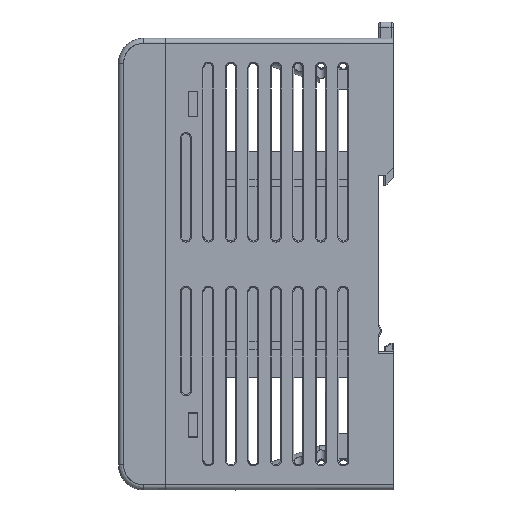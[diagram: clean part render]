
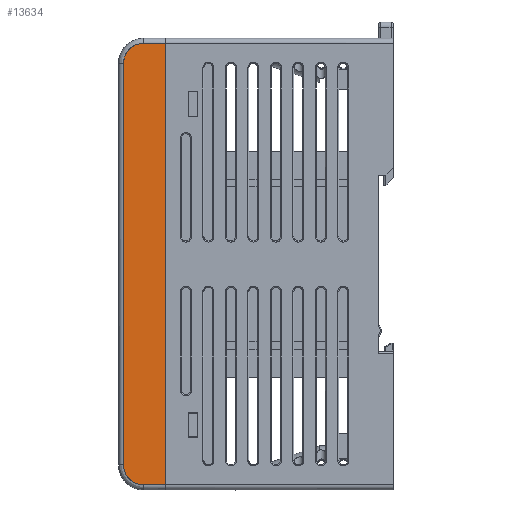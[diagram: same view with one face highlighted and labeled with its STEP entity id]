
A CAD part, left-side view. The second image highlights one B-rep face of the part: STEP entity #13634.
In plain terms, the highlighted planar face has unit normal (-1, 0, 0).
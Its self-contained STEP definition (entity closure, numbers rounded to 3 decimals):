
#13634=ADVANCED_FACE('',(#14996),#44193,.T.);
#14996=FACE_OUTER_BOUND('',#16307,.T.);
#16307=EDGE_LOOP('',(#18284,#18285,#18286,#18287,#18288,#18289));
#18284=ORIENTED_EDGE('',*,*,#24928,.T.);
#18285=ORIENTED_EDGE('',*,*,#24933,.T.);
#18286=ORIENTED_EDGE('',*,*,#24932,.T.);
#18287=ORIENTED_EDGE('',*,*,#24931,.T.);
#18288=ORIENTED_EDGE('',*,*,#24930,.T.);
#18289=ORIENTED_EDGE('',*,*,#24929,.T.);
#24928=EDGE_CURVE('',#38216,#38217,#33593,.T.);
#24929=EDGE_CURVE('',#38218,#38216,#30888,.T.);
#24930=EDGE_CURVE('',#38219,#38218,#33594,.T.);
#24931=EDGE_CURVE('',#38220,#38219,#30889,.T.);
#24932=EDGE_CURVE('',#38221,#38220,#33595,.T.);
#24933=EDGE_CURVE('',#38217,#38221,#33596,.T.);
#30888=(
BOUNDED_CURVE()
B_SPLINE_CURVE(2,(#49834,#49835,#49836),.UNSPECIFIED.,.F.,.F.)
B_SPLINE_CURVE_WITH_KNOTS((3,3),(-6.283,0.),.UNSPECIFIED.)
CURVE()
GEOMETRIC_REPRESENTATION_ITEM()
RATIONAL_B_SPLINE_CURVE((1.,0.707,1.))
REPRESENTATION_ITEM('')
);
#30889=(
BOUNDED_CURVE()
B_SPLINE_CURVE(2,(#49839,#49840,#49841),.UNSPECIFIED.,.F.,.F.)
B_SPLINE_CURVE_WITH_KNOTS((3,3),(-6.283,0.),.UNSPECIFIED.)
CURVE()
GEOMETRIC_REPRESENTATION_ITEM()
RATIONAL_B_SPLINE_CURVE((1.,0.707,1.))
REPRESENTATION_ITEM('')
);
#33593=B_SPLINE_CURVE_WITH_KNOTS('',1,(#49832,#49833),.UNSPECIFIED.,.F.,
 .F.,(2,2),(-4.4,0.),.UNSPECIFIED.);
#33594=B_SPLINE_CURVE_WITH_KNOTS('',1,(#49837,#49838),.UNSPECIFIED.,.F.,
 .F.,(2,2),(-80.,0.),.UNSPECIFIED.);
#33595=B_SPLINE_CURVE_WITH_KNOTS('',1,(#49842,#49843),.UNSPECIFIED.,.F.,
 .F.,(2,2),(-4.4,0.),.UNSPECIFIED.);
#33596=B_SPLINE_CURVE_WITH_KNOTS('',1,(#49844,#49845),.UNSPECIFIED.,.F.,
 .F.,(2,2),(-88.,0.),.UNSPECIFIED.);
#38216=VERTEX_POINT('',#49826);
#38217=VERTEX_POINT('',#49827);
#38218=VERTEX_POINT('',#49828);
#38219=VERTEX_POINT('',#49829);
#38220=VERTEX_POINT('',#49830);
#38221=VERTEX_POINT('',#49831);
#44193=PLANE('',#44980);
#44980=AXIS2_PLACEMENT_3D('',#49825,#45982,$);
#45982=DIRECTION('',(-1.,0.,0.));
#49825=CARTESIAN_POINT('',(-12.5,16.446,-52.914));
#49826=CARTESIAN_POINT('',(-12.5,21.8,-44.));
#49827=CARTESIAN_POINT('',(-12.5,17.4,-44.));
#49828=CARTESIAN_POINT('',(-12.5,25.8,-40.));
#49829=CARTESIAN_POINT('',(-12.5,25.8,40.));
#49830=CARTESIAN_POINT('',(-12.5,21.8,44.));
#49831=CARTESIAN_POINT('',(-12.5,17.4,44.));
#49832=CARTESIAN_POINT('',(-12.5,21.8,-44.));
#49833=CARTESIAN_POINT('',(-12.5,17.4,-44.));
#49834=CARTESIAN_POINT('',(-12.5,25.8,-40.));
#49835=CARTESIAN_POINT('',(-12.5,25.8,-44.));
#49836=CARTESIAN_POINT('',(-12.5,21.8,-44.));
#49837=CARTESIAN_POINT('',(-12.5,25.8,40.));
#49838=CARTESIAN_POINT('',(-12.5,25.8,-40.));
#49839=CARTESIAN_POINT('',(-12.5,21.8,44.));
#49840=CARTESIAN_POINT('',(-12.5,25.8,44.));
#49841=CARTESIAN_POINT('',(-12.5,25.8,40.));
#49842=CARTESIAN_POINT('',(-12.5,17.4,44.));
#49843=CARTESIAN_POINT('',(-12.5,21.8,44.));
#49844=CARTESIAN_POINT('',(-12.5,17.4,-44.));
#49845=CARTESIAN_POINT('',(-12.5,17.4,44.));
